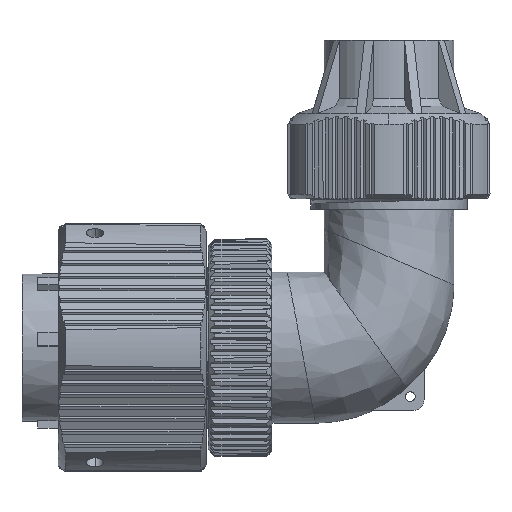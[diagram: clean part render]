
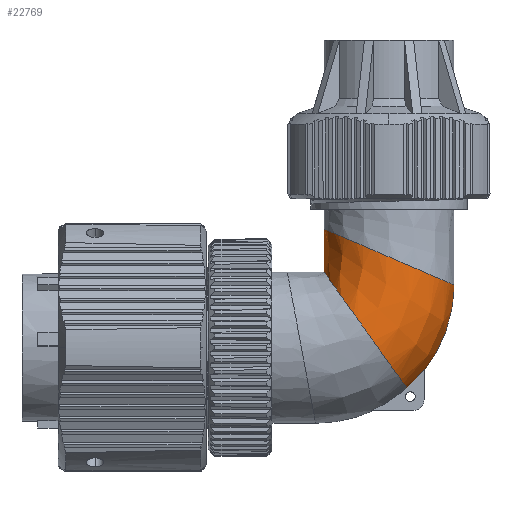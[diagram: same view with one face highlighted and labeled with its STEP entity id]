
A CAD part, left-side view. The second image highlights one B-rep face of the part: STEP entity #22769.
In plain terms, the highlighted free-form (B-spline) face has degree [3, 3] with [13, 4] control points.
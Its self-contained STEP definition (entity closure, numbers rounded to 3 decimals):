
#3625=CARTESIAN_POINT('',(0.,-18.5,
11.166));
#3626=CARTESIAN_POINT('',(-0.818,-18.5,
11.166));
#3627=CARTESIAN_POINT('',(-2.452,-18.822,
11.025));
#3628=CARTESIAN_POINT('',(-4.531,-20.186,
10.434));
#3629=CARTESIAN_POINT('',(-5.92,-22.214,
9.558));
#3630=CARTESIAN_POINT('',(-6.408,-24.601,
8.53));
#3631=CARTESIAN_POINT('',(-5.92,-26.988,
7.502));
#3632=CARTESIAN_POINT('',(-4.531,-29.015,
6.628));
#3633=CARTESIAN_POINT('',(-2.452,-30.378,
6.04));
#3634=CARTESIAN_POINT('',(-0.817,-30.7,
5.9));
#3635=CARTESIAN_POINT('',(0.,-30.7,
5.9));
#3637=CARTESIAN_POINT('',(0.,-27.9,
-2.157));
#3638=CARTESIAN_POINT('',(0.,-29.653,
0.059));
#3639=CARTESIAN_POINT('',(0.,-30.7,
2.858));
#3640=CARTESIAN_POINT('',(0.,-30.7,
5.9));
#3642=CARTESIAN_POINT('',(0.,-18.5,
11.166));
#3643=CARTESIAN_POINT('',(0.,-18.5,
9.811));
#3644=CARTESIAN_POINT('',(0.,-18.5,
8.455));
#3645=CARTESIAN_POINT('',(0.,-18.5,
7.1));
#3705=CARTESIAN_POINT('',(0.,-18.5,
7.1));
#3707=CARTESIAN_POINT('',(0.,-18.5,
7.1));
#3708=CARTESIAN_POINT('',(-0.88,-18.5,
7.1));
#3709=CARTESIAN_POINT('',(-2.641,-18.707,
6.814));
#3710=CARTESIAN_POINT('',(-4.88,-19.581,
5.596));
#3711=CARTESIAN_POINT('',(-6.376,-20.881,
3.775));
#3712=CARTESIAN_POINT('',(-6.901,-22.409,
1.63));
#3713=CARTESIAN_POINT('',(-6.376,-23.936,
-0.515));
#3714=CARTESIAN_POINT('',(-4.88,-25.234,
-2.334));
#3715=CARTESIAN_POINT('',(-2.925,-25.994,
-3.397));
#3716=CARTESIAN_POINT('',(-1.54,-26.219,
-3.708));
#3717=CARTESIAN_POINT('',(-1.,-26.267,
-3.775));
#13339=CARTESIAN_POINT('',(-1.,-26.267,
-3.775));
#13340=CARTESIAN_POINT('',(-1.,-26.466,
-3.598));
#13341=CARTESIAN_POINT('',(-1.,-26.852,
-3.232));
#13342=CARTESIAN_POINT('',(-1.,-27.398,
-2.648));
#13343=CARTESIAN_POINT('',(-1.,-27.737,
-2.238));
#13344=CARTESIAN_POINT('',(-1.,-27.9,
-2.027));
#13361=CARTESIAN_POINT('',(-1.,-27.9,
-2.027));
#13362=CARTESIAN_POINT('',(-0.891,-27.9,
-2.056));
#13363=CARTESIAN_POINT('',(-0.672,-27.9,
-2.103));
#13364=CARTESIAN_POINT('',(-0.337,-27.9,
-2.147));
#13365=CARTESIAN_POINT('',(-0.113,-27.9,
-2.157));
#13366=CARTESIAN_POINT('',(0.,-27.9,
-2.157));
#17050=VERTEX_POINT('',#3705);
#17051=VERTEX_POINT('',#3717);
#17060=VERTEX_POINT('',#13344);
#17067=VERTEX_POINT('',#3625);
#17068=VERTEX_POINT('',#3635);
#17069=VERTEX_POINT('',#3637);
#22703=CARTESIAN_POINT('',(0.218,-18.502,
7.056));
#22704=CARTESIAN_POINT('',(0.212,-18.503,
8.438));
#22705=CARTESIAN_POINT('',(0.206,-18.503,
9.82));
#22706=CARTESIAN_POINT('',(0.202,-18.503,
11.203));
#22707=CARTESIAN_POINT('',(0.145,-18.501,
7.058));
#22708=CARTESIAN_POINT('',(0.141,-18.501,
8.44));
#22709=CARTESIAN_POINT('',(0.137,-18.501,
9.822));
#22710=CARTESIAN_POINT('',(0.135,-18.501,
11.204));
#22711=CARTESIAN_POINT('',(-0.808,-18.492,
7.071));
#22712=CARTESIAN_POINT('',(-0.788,-18.488,
8.452));
#22713=CARTESIAN_POINT('',(-0.765,-18.486,
9.831));
#22714=CARTESIAN_POINT('',(-0.75,-18.487,
11.21));
#22715=CARTESIAN_POINT('',(-2.643,-18.705,
6.773));
#22716=CARTESIAN_POINT('',(-2.576,-18.782,
8.177));
#22717=CARTESIAN_POINT('',(-2.501,-18.828,
9.615));
#22718=CARTESIAN_POINT('',(-2.451,-18.822,
11.065));
#22719=CARTESIAN_POINT('',(-4.884,-19.57,
5.551));
#22720=CARTESIAN_POINT('',(-4.76,-19.96,
7.065));
#22721=CARTESIAN_POINT('',(-4.621,-20.201,
8.743));
#22722=CARTESIAN_POINT('',(-4.529,-20.185,
10.482));
#22723=CARTESIAN_POINT('',(-6.381,-20.856,
3.725));
#22724=CARTESIAN_POINT('',(-6.219,-21.703,
5.411));
#22725=CARTESIAN_POINT('',(-6.037,-22.233,
7.451));
#22726=CARTESIAN_POINT('',(-5.917,-22.214,
9.618));
#22727=CARTESIAN_POINT('',(-6.906,-22.368,
1.574));
#22728=CARTESIAN_POINT('',(-6.732,-23.75,
3.467));
#22729=CARTESIAN_POINT('',(-6.535,-24.618,
5.934));
#22730=CARTESIAN_POINT('',(-6.405,-24.601,
8.603));
#22731=CARTESIAN_POINT('',(-6.381,-23.88,
-0.577));
#22732=CARTESIAN_POINT('',(-6.219,-25.795,
1.523));
#22733=CARTESIAN_POINT('',(-6.037,-27.003,
4.418));
#22734=CARTESIAN_POINT('',(-5.917,-26.987,
7.59));
#22735=CARTESIAN_POINT('',(-4.884,-25.164,
-2.401));
#22736=CARTESIAN_POINT('',(-4.76,-27.537,
-0.128));
#22737=CARTESIAN_POINT('',(-4.621,-29.033,
3.128));
#22738=CARTESIAN_POINT('',(-4.529,-29.015,
6.728));
#22739=CARTESIAN_POINT('',(-2.643,-26.026,
-3.621));
#22740=CARTESIAN_POINT('',(-2.576,-28.713,
-1.238));
#22741=CARTESIAN_POINT('',(-2.501,-30.404,
2.26));
#22742=CARTESIAN_POINT('',(-2.451,-30.378,
6.147));
#22743=CARTESIAN_POINT('',(-0.808,-26.238,
-3.919));
#22744=CARTESIAN_POINT('',(-0.788,-29.005,
-1.512));
#22745=CARTESIAN_POINT('',(-0.765,-30.746,
2.045));
#22746=CARTESIAN_POINT('',(-0.75,-30.713,
6.003));
#22747=CARTESIAN_POINT('',(0.145,-26.229,
-3.906));
#22748=CARTESIAN_POINT('',(0.141,-28.993,
-1.5));
#22749=CARTESIAN_POINT('',(0.137,-30.731,
2.054));
#22750=CARTESIAN_POINT('',(0.135,-30.698,
6.01));
#22751=CARTESIAN_POINT('',(0.218,-26.228,
-3.904));
#22752=CARTESIAN_POINT('',(0.212,-28.991,
-1.498));
#22753=CARTESIAN_POINT('',(0.206,-30.729,
2.055));
#22754=CARTESIAN_POINT('',(0.202,-30.696,
6.011));
#22755=B_SPLINE_SURFACE_WITH_KNOTS('',3,3,((#22703,#22704,#22705,#22706),
(#22707,#22708,#22709,#22710),(#22711,#22712,#22713,#22714),(#22715,#22716,
#22717,#22718),(#22719,#22720,#22721,#22722),(#22723,#22724,#22725,#22726),(
#22727,#22728,#22729,#22730),(#22731,#22732,#22733,#22734),(#22735,#22736,
#22737,#22738),(#22739,#22740,#22741,#22742),(#22743,#22744,#22745,#22746),(
#22747,#22748,#22749,#22750),(#22751,#22752,#22753,#22754)),.UNSPECIFIED.,.F.,
.F.,.F.,(4,1,1,1,1,1,1,1,1,1,4),(4,4),(0.495,0.5,0.563,0.625,
0.688,0.75,0.813,0.875,0.938,1.,1.005),(
0.412,0.763),.UNSPECIFIED.);
#22756=ORIENTED_EDGE('',*,*,#22693,.T.);
#22758=ORIENTED_EDGE('',*,*,#22757,.F.);
#22760=ORIENTED_EDGE('',*,*,#22759,.F.);
#22762=ORIENTED_EDGE('',*,*,#22761,.F.);
#22764=ORIENTED_EDGE('',*,*,#22763,.F.);
#22766=ORIENTED_EDGE('',*,*,#22765,.F.);
#22767=EDGE_LOOP('',(#22756,#22758,#22760,#22762,#22764,#22766));
#22768=FACE_OUTER_BOUND('',#22767,.F.);
#3636=B_SPLINE_CURVE_WITH_KNOTS('',3,(#3625,#3626,#3627,#3628,#3629,#3630,#3631,
#3632,#3633,#3634,#3635),.UNSPECIFIED.,.F.,.F.,(4,1,1,1,1,1,1,1,4),(0.,
0.125,0.25,0.375,0.5,
0.625,0.75,0.875,1.),.UNSPECIFIED.);
#3641=B_SPLINE_CURVE_WITH_KNOTS('',3,(#3637,#3638,#3639,#3640),.UNSPECIFIED.,
.F.,.F.,(4,4),(0.,1.),.UNSPECIFIED.);
#3646=B_SPLINE_CURVE_WITH_KNOTS('',3,(#3642,#3643,#3644,#3645),.UNSPECIFIED.,
.F.,.F.,(4,4),(0.,1.),.UNSPECIFIED.);
#3718=B_SPLINE_CURVE_WITH_KNOTS('',3,(#3707,#3708,#3709,#3710,#3711,#3712,#3713,
#3714,#3715,#3716,#3717),.UNSPECIFIED.,.F.,.F.,(4,1,1,1,1,1,1,1,4),(0.,
0.131,0.262,0.394,0.525,
0.656,0.787,0.919,1.),.UNSPECIFIED.);
#13345=B_SPLINE_CURVE_WITH_KNOTS('',3,(#13339,#13340,#13341,#13342,#13343,
#13344),.UNSPECIFIED.,.F.,.F.,(4,1,1,4),(0.,0.333,
0.667,1.),.UNSPECIFIED.);
#13367=B_SPLINE_CURVE_WITH_KNOTS('',3,(#13361,#13362,#13363,#13364,#13365,
#13366),.UNSPECIFIED.,.F.,.F.,(4,1,1,4),(0.,0.333,
0.667,1.),.UNSPECIFIED.);
#22693=EDGE_CURVE('',#17067,#17068,#3636,.T.);
#22757=EDGE_CURVE('',#17069,#17068,#3641,.T.);
#22759=EDGE_CURVE('',#17060,#17069,#13367,.T.);
#22761=EDGE_CURVE('',#17051,#17060,#13345,.T.);
#22763=EDGE_CURVE('',#17050,#17051,#3718,.T.);
#22765=EDGE_CURVE('',#17067,#17050,#3646,.T.);
#22769=ADVANCED_FACE('',(#22768),#22755,.T.);
